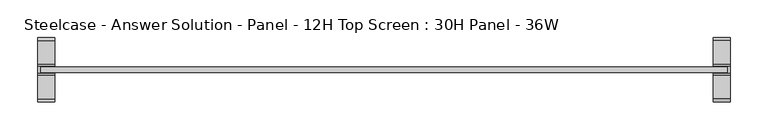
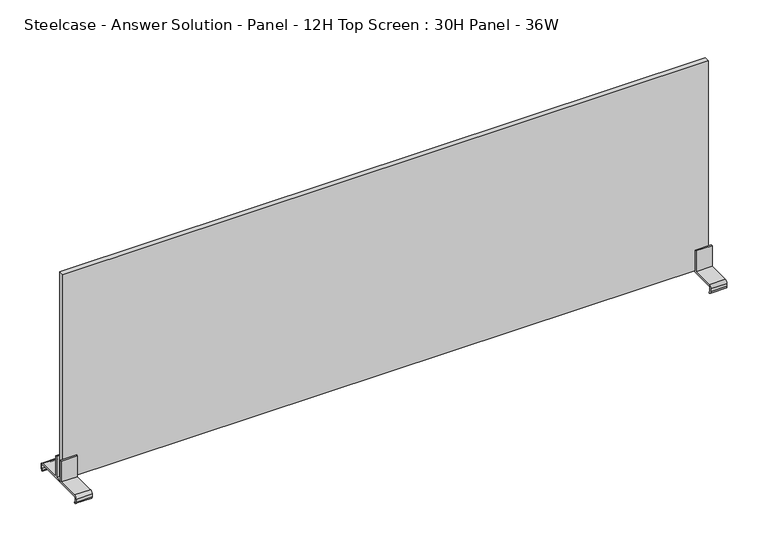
"""IFC4 building model written with IfcOpenShell, lengths in millimetres: furniture geometry, Steelcase - Answer Solution - Panel - 12H Top Screen : 30H Panel - 36W."""

from ifc_helpers import new_model, si_unit, point, frame, frame_2d, origin, place, context, project, spatial, polyline, circle_curve, trimmed, segment, composite_curve, outline, extrude, source, transform, mapped, element, save


def steelcase_answer_solution_panel_12h_top_screen_30h_panel_36w_a8cdd2ee(model_context):
    return source(origin(), model_context, "Body", "SweptSolid", [
        extrude(outline(polyline([(453.136, -3.683001), (-453.136, -3.683001), (-453.136, 3.683001), (453.136, 3.683001), (453.136, -3.683001)])), frame((0.0, 0.0, 770.3819981), z_axis=(0.0, 0.0, 1.0), x_axis=(1.0, 0.0, 0.0)), (0.0, 0.0, 1.0), 304.8),
        extrude(outline(composite_curve([segment(trimmed(circle_curve(frame_2d((38.5445, 766.445)), 1.905), [point((40.4495, 766.445))], [point((38.5445, 768.35))], True, "CARTESIAN"), True, "CONTINUOUS"), segment(polyline([(38.5445, 768.35), (-38.5445, 768.35)]), True, "CONTINUOUS"), segment(trimmed(circle_curve(frame_2d((-38.5445, 766.445)), 1.905), [point((-38.5445, 768.35))], [point((-40.4495, 766.445))], True, "CARTESIAN"), True, "CONTINUOUS"), segment(polyline([(-40.4495, 766.445), (-40.4495, 761.8341187)]), True, "CONTINUOUS"), segment(trimmed(circle_curve(frame_2d((-38.5445, 761.8341187)), 1.905), [point((-40.4495, 761.8341187))], [point((-38.6743328, 759.9335481))], True, "CARTESIAN"), True, "CONTINUOUS"), segment(polyline([(-38.6743328, 759.9335481), (-39.2392449, 758.3535566)]), True, "CONTINUOUS"), segment(trimmed(circle_curve(frame_2d((-38.5459934, 762.2284569)), 3.9364261), [point((-39.2392449, 758.3535566))], [point((-42.4824195, 762.2284569))], False, "CARTESIAN"), True, "CONTINUOUS"), segment(polyline([(-42.4824195, 762.2284569), (-42.4824195, 766.4452288)]), True, "CONTINUOUS"), segment(trimmed(circle_curve(frame_2d((-38.5459934, 766.4452288)), 3.9364261), [point((-42.4824195, 766.4452288))], [point((-38.5459934, 770.3816549))], False, "CARTESIAN"), True, "CONTINUOUS"), segment(polyline([(-38.5459934, 770.3816549), (-6.7310004, 770.3816549), (-6.7310004, 801.3699952), (-4.699, 801.3699952), (-4.699, 770.3819952), (4.699, 770.3819952), (4.699, 801.3700048), (6.7310004, 801.3700048), (6.7310004, 770.3816549), (38.5459934, 770.3816549)]), True, "CONTINUOUS"), segment(trimmed(circle_curve(frame_2d((38.5459934, 766.4452288)), 3.9364261), [point((38.5459934, 770.3816549))], [point((42.4824195, 766.4452288))], False, "CARTESIAN"), True, "CONTINUOUS"), segment(polyline([(42.4824195, 766.4452288), (42.4824195, 762.2284569)]), True, "CONTINUOUS"), segment(trimmed(circle_curve(frame_2d((38.5459934, 762.2284569)), 3.9364261), [point((42.4824195, 762.2284569))], [point((39.6631716, 758.4538889))], False, "CARTESIAN"), True, "CONTINUOUS"), segment(polyline([(39.6631716, 758.4538889), (39.1055128, 760.0135996)]), True, "CONTINUOUS"), segment(trimmed(circle_curve(frame_2d((38.5445, 761.8341187)), 1.905), [point((39.1055128, 760.0135996))], [point((40.4495, 761.8341187))], True, "CARTESIAN"), True, "CONTINUOUS"), segment(polyline([(40.4495, 761.8341187), (40.4495, 766.445)]), True, "CONTINUOUS")], self_intersect=False)), frame((434.594, 0.0, 0.0), z_axis=(1.0, 0.0, 0.0), x_axis=(0.0, 1.0, 0.0)), (0.0, 0.0, 1.0), 22.606),
        extrude(outline(composite_curve([segment(trimmed(circle_curve(frame_2d((38.5445, 766.445)), 1.905), [point((40.4495, 766.445))], [point((38.5445, 768.35))], True, "CARTESIAN"), True, "CONTINUOUS"), segment(polyline([(38.5445, 768.35), (-38.5445, 768.35)]), True, "CONTINUOUS"), segment(trimmed(circle_curve(frame_2d((-38.5445, 766.445)), 1.905), [point((-38.5445, 768.35))], [point((-40.4495, 766.445))], True, "CARTESIAN"), True, "CONTINUOUS"), segment(polyline([(-40.4495, 766.445), (-40.4495, 761.8341187)]), True, "CONTINUOUS"), segment(trimmed(circle_curve(frame_2d((-38.5445, 761.8341187)), 1.905), [point((-40.4495, 761.8341187))], [point((-38.6743328, 759.9335481))], True, "CARTESIAN"), True, "CONTINUOUS"), segment(polyline([(-38.6743328, 759.9335481), (-39.2392449, 758.3535566)]), True, "CONTINUOUS"), segment(trimmed(circle_curve(frame_2d((-38.5459934, 762.2284569)), 3.9364261), [point((-39.2392449, 758.3535566))], [point((-42.4824195, 762.2284569))], False, "CARTESIAN"), True, "CONTINUOUS"), segment(polyline([(-42.4824195, 762.2284569), (-42.4824195, 766.4452288)]), True, "CONTINUOUS"), segment(trimmed(circle_curve(frame_2d((-38.5459934, 766.4452288)), 3.9364261), [point((-42.4824195, 766.4452288))], [point((-38.5459934, 770.3816549))], False, "CARTESIAN"), True, "CONTINUOUS"), segment(polyline([(-38.5459934, 770.3816549), (-6.7310004, 770.3816549), (-6.7310004, 801.3699952), (-4.699, 801.3699952), (-4.699, 770.3819952), (4.699, 770.3819952), (4.699, 801.3700048), (6.7310004, 801.3700048), (6.7310004, 770.3816549), (38.5459934, 770.3816549)]), True, "CONTINUOUS"), segment(trimmed(circle_curve(frame_2d((38.5459934, 766.4452288)), 3.9364261), [point((38.5459934, 770.3816549))], [point((42.4824195, 766.4452288))], False, "CARTESIAN"), True, "CONTINUOUS"), segment(polyline([(42.4824195, 766.4452288), (42.4824195, 762.2284569)]), True, "CONTINUOUS"), segment(trimmed(circle_curve(frame_2d((38.5459934, 762.2284569)), 3.9364261), [point((42.4824195, 762.2284569))], [point((39.6631716, 758.4538889))], False, "CARTESIAN"), True, "CONTINUOUS"), segment(polyline([(39.6631716, 758.4538889), (39.1055128, 760.0135996)]), True, "CONTINUOUS"), segment(trimmed(circle_curve(frame_2d((38.5445, 761.8341187)), 1.905), [point((39.1055128, 760.0135996))], [point((40.4495, 761.8341187))], True, "CARTESIAN"), True, "CONTINUOUS"), segment(polyline([(40.4495, 761.8341187), (40.4495, 766.445)]), True, "CONTINUOUS")], self_intersect=False)), frame((-457.2, 0.0, 0.0), z_axis=(1.0, 0.0, 0.0), x_axis=(0.0, 1.0, 0.0)), (0.0, 0.0, 1.0), 22.606),
    ])


if __name__ == "__main__":
    model = new_model("IFC4")
    model_context = context("Model", 3, world=origin())
    ifc_project = project(units=[si_unit("LENGTHUNIT", "METRE", prefix="MILLI")], contexts=[model_context])
    site = spatial("IfcSite", under=ifc_project)
    building = spatial("IfcBuilding", under=site)
    placement = place(None, origin())
    steelcase_answer_solution_panel_12h_top_screen_30h_panel_36w_shape = steelcase_answer_solution_panel_12h_top_screen_30h_panel_36w_a8cdd2ee(model_context)
    element("IfcFurniture", 1, ObjectType="Steelcase - Answer Solution - Panel - 12H Top Screen : 30H Panel - 36W", at=placement, inside=building, context=model_context, shape_type="MappedRepresentation", body=[
        mapped(steelcase_answer_solution_panel_12h_top_screen_30h_panel_36w_shape, transform((0.0, 0.0, 0.0), x_axis=(1.0, 0.0, 0.0), y_axis=(0.0, 1.0, 0.0), z_axis=(0.0, 0.0, 1.0))),
    ])
    save(model, "model.ifc")
